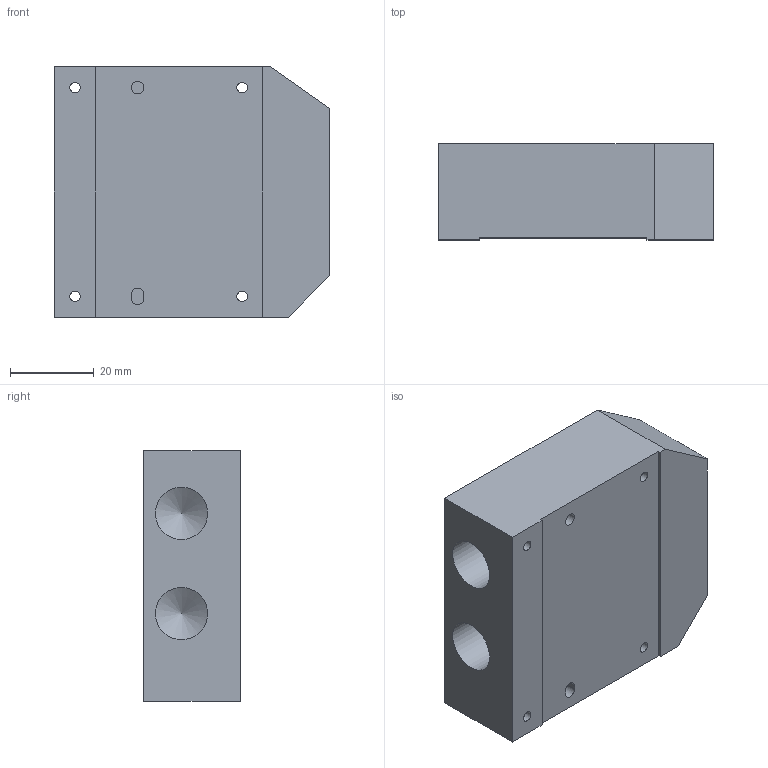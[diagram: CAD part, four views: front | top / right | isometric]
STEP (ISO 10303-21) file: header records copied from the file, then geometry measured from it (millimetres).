
FILE_DESCRIPTION(/* description */ (''),/* implementation_level */ '2;1');
FILE_NAME(/* name */ 'C:\Users\strothej\Documents\ActualDocuments\MicroscopeParts\TwoPhotonSystem\ScanningMechanics\v26\Drawings\Filter_Holder_Runner.stp',/* time_stamp */ '2017-05-20T13:07:37-07:00',/* author */ ('strothej'),/* organization */ (''),/* preprocessor_version */ 'ST-DEVELOPER v16.1',/* originating_system */ 'Autodesk Inventor 2016',/* authorisation */ '');
FILE_SCHEMA (('AUTOMOTIVE_DESIGN { 1 0 10303 214 3 1 1 }'));
Length unit declared in the file: millimetre
Products named in the file (1): Filter_Holder_Runner
Bounding box: 66 x 23 x 60 mm (x, y, z)
Volume: 70936.4 mm3; surface area: 19083.7 mm2
Topology: 1 solids, 1 shells, 35 faces, 79 edges, 52 vertices
Faces by surface type: plane 20, cylinder 13, cone 2
Full cylindrical faces by diameter (mm): 2.5 x4, 3 x1, 4.3 x4, 12.5 x2
Entity records: 940 total; most frequent: DIRECTION 162, CARTESIAN_POINT 150, ORIENTED_EDGE 128, EDGE_CURVE 64, EDGE_LOOP 62, AXIS2_PLACEMENT_3D 62, VERTEX_POINT 50, LINE 38
